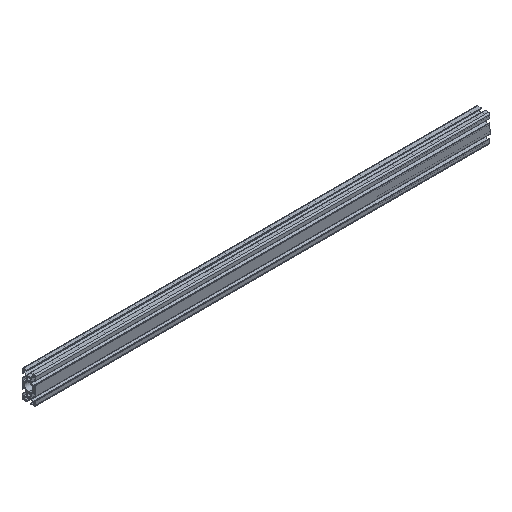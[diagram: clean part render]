
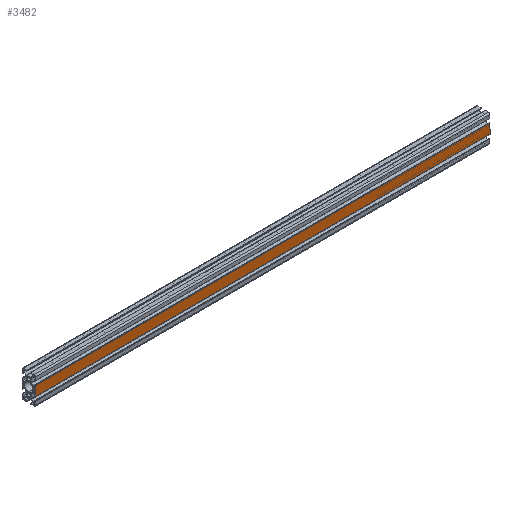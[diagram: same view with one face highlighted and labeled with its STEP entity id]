
A CAD part, isometric view. The second image highlights one B-rep face of the part: STEP entity #3482.
In plain terms, the highlighted planar face has unit normal (0, -1, 0).
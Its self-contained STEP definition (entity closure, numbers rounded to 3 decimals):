
#258 = VECTOR ( 'NONE', #3592, 1000. ) ;
#370 = EDGE_CURVE ( 'NONE', #1288, #2444, #2254, .T. ) ;
#384 = CARTESIAN_POINT ( 'NONE',  ( 1000., -15., -10.5 ) ) ;
#479 = VERTEX_POINT ( 'NONE', #3924 ) ;
#533 = CARTESIAN_POINT ( 'NONE',  ( 1000., -15., 10.5 ) ) ;
#599 = CARTESIAN_POINT ( 'NONE',  ( 0., -15., 10.5 ) ) ;
#637 = EDGE_LOOP ( 'NONE', ( #707, #3214, #3335, #3490 ) ) ;
#707 = ORIENTED_EDGE ( 'NONE', *, *, #370, .T. ) ;
#713 = VECTOR ( 'NONE', #3666, 1000. ) ;
#859 = CARTESIAN_POINT ( 'NONE',  ( 1000., -15., -10.5 ) ) ;
#891 = PLANE ( 'NONE',  #3508 ) ;
#1288 = VERTEX_POINT ( 'NONE', #3718 ) ;
#1625 = CARTESIAN_POINT ( 'NONE',  ( 1000., -15., 10.5 ) ) ;
#1999 = DIRECTION ( 'NONE',  ( -1., 0., 0. ) ) ;
#2254 = LINE ( 'NONE', #599, #713 ) ;
#2376 = CARTESIAN_POINT ( 'NONE',  ( 0., -15., -10.5 ) ) ;
#2396 = DIRECTION ( 'NONE',  ( -1., 0., 0. ) ) ;
#2444 = VERTEX_POINT ( 'NONE', #2376 ) ;
#2461 = VERTEX_POINT ( 'NONE', #384 ) ;
#2559 = VECTOR ( 'NONE', #1999, 1000. ) ;
#2653 = EDGE_CURVE ( 'NONE', #479, #1288, #3414, .T. ) ;
#2695 = LINE ( 'NONE', #1625, #258 ) ;
#2710 = DIRECTION ( 'NONE',  ( 0., 1., 0. ) ) ;
#2901 = EDGE_CURVE ( 'NONE', #479, #2461, #2695, .T. ) ;
#3005 = DIRECTION ( 'NONE',  ( 0., 0., 1. ) ) ;
#3213 = VECTOR ( 'NONE', #2396, 1000. ) ;
#3214 = ORIENTED_EDGE ( 'NONE', *, *, #3465, .F. ) ;
#3314 = FACE_OUTER_BOUND ( 'NONE', #637, .T. ) ;
#3335 = ORIENTED_EDGE ( 'NONE', *, *, #2901, .F. ) ;
#3414 = LINE ( 'NONE', #3810, #2559 ) ;
#3416 = LINE ( 'NONE', #859, #3213 ) ;
#3465 = EDGE_CURVE ( 'NONE', #2461, #2444, #3416, .T. ) ;
#3482 = ADVANCED_FACE ( 'NONE', ( #3314 ), #891, .F. ) ;
#3490 = ORIENTED_EDGE ( 'NONE', *, *, #2653, .T. ) ;
#3508 = AXIS2_PLACEMENT_3D ( 'NONE', #533, #2710, #3005 ) ;
#3592 = DIRECTION ( 'NONE',  ( 0., 0., -1. ) ) ;
#3666 = DIRECTION ( 'NONE',  ( 0., 0., -1. ) ) ;
#3718 = CARTESIAN_POINT ( 'NONE',  ( 0., -15., 10.5 ) ) ;
#3810 = CARTESIAN_POINT ( 'NONE',  ( 1000., -15., 10.5 ) ) ;
#3924 = CARTESIAN_POINT ( 'NONE',  ( 1000., -15., 10.5 ) ) ;
